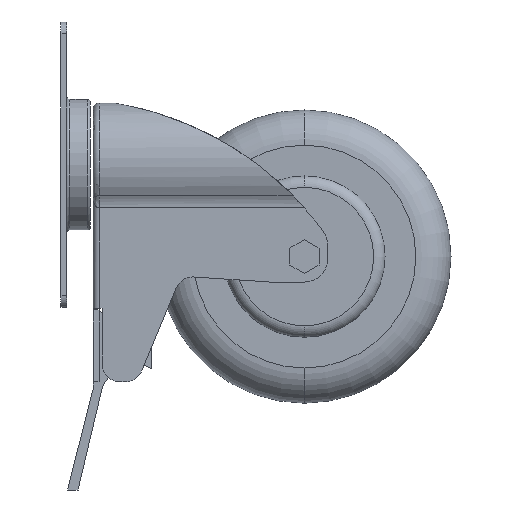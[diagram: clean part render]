
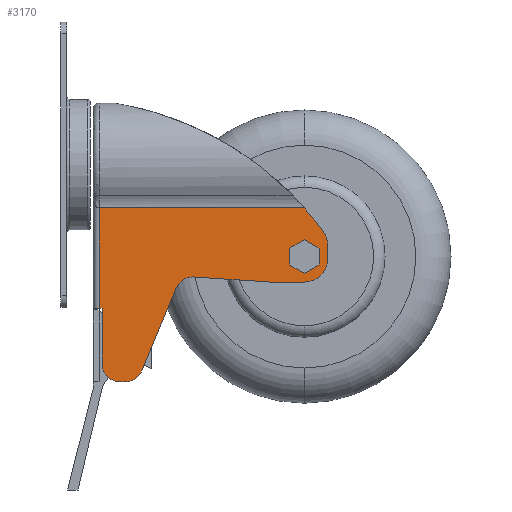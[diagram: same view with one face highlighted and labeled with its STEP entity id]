
A CAD part, left-side view. The second image highlights one B-rep face of the part: STEP entity #3170.
In plain terms, the highlighted planar face has unit normal (-1, 0, 0).
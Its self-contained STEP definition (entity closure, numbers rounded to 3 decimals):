
#31 = CARTESIAN_POINT ( 'NONE',  ( -17., -0.555, -87.608 ) ) ;
#78 = ORIENTED_EDGE ( 'NONE', *, *, #1843, .T. ) ;
#80 = LINE ( 'NONE', #951, #2406 ) ;
#169 = CARTESIAN_POINT ( 'NONE',  ( -17., -13., -14.697 ) ) ;
#218 = DIRECTION ( 'NONE',  ( -1., 0., 0. ) ) ;
#258 = CARTESIAN_POINT ( 'NONE',  ( -17., -83., -27.551 ) ) ;
#363 = VERTEX_POINT ( 'NONE', #500 ) ;
#374 = DIRECTION ( 'NONE',  ( 0., 0., -1. ) ) ;
#386 = CARTESIAN_POINT ( 'NONE',  ( -17., -39.348, -41.965 ) ) ;
#388 = VECTOR ( 'NONE', #940, 1000. ) ;
#410 = CARTESIAN_POINT ( 'NONE',  ( -17., -13., -14.697 ) ) ;
#434 = EDGE_CURVE ( 'NONE', #2921, #3862, #3911, .T. ) ;
#452 = CIRCLE ( 'NONE', #2693, 8. ) ;
#453 = EDGE_CURVE ( 'NONE', #4054, #934, #4657, .T. ) ;
#500 = CARTESIAN_POINT ( 'NONE',  ( -17., -82.92, -14.697 ) ) ;
#522 = VECTOR ( 'NONE', #2522, 1000. ) ;
#614 = VERTEX_POINT ( 'NONE', #4191 ) ;
#692 = AXIS2_PLACEMENT_3D ( 'NONE', #2886, #1825, #374 ) ;
#757 = CARTESIAN_POINT ( 'NONE',  ( -17., -89.466, -22.84 ) ) ;
#770 = ORIENTED_EDGE ( 'NONE', *, *, #3566, .T. ) ;
#775 = DIRECTION ( 'NONE',  ( 0., 1., 0. ) ) ;
#807 = CARTESIAN_POINT ( 'NONE',  ( -17., -14., -49. ) ) ;
#895 = CARTESIAN_POINT ( 'NONE',  ( -17., -22., -68. ) ) ;
#934 = VERTEX_POINT ( 'NONE', #1250 ) ;
#940 = DIRECTION ( 'NONE',  ( 0., -1., 0. ) ) ;
#951 = CARTESIAN_POINT ( 'NONE',  ( -17., -14., -40. ) ) ;
#977 = ORIENTED_EDGE ( 'NONE', *, *, #3546, .T. ) ;
#985 = VERTEX_POINT ( 'NONE', #3802 ) ;
#1026 = CIRCLE ( 'NONE', #2359, 8. ) ;
#1109 = EDGE_CURVE ( 'NONE', #1329, #3621, #1026, .T. ) ;
#1136 = CARTESIAN_POINT ( 'NONE',  ( -17., -83., -40. ) ) ;
#1162 = EDGE_CURVE ( 'NONE', #4580, #3621, #1490, .T. ) ;
#1199 = CARTESIAN_POINT ( 'NONE',  ( -17., -22., -74. ) ) ;
#1250 = CARTESIAN_POINT ( 'NONE',  ( -17., -13., -49. ) ) ;
#1295 = EDGE_CURVE ( 'NONE', #363, #4054, #2953, .T. ) ;
#1329 = VERTEX_POINT ( 'NONE', #1136 ) ;
#1334 = VERTEX_POINT ( 'NONE', #757 ) ;
#1403 = CARTESIAN_POINT ( 'NONE',  ( -17., -83., -32. ) ) ;
#1487 = EDGE_CURVE ( 'NONE', #3803, #2872, #1837, .T. ) ;
#1490 = LINE ( 'NONE', #3532, #522 ) ;
#1559 = AXIS2_PLACEMENT_3D ( 'NONE', #31, #2224, #4371 ) ;
#1632 = CARTESIAN_POINT ( 'NONE',  ( -17., -91., -32. ) ) ;
#1705 = LINE ( 'NONE', #3735, #3325 ) ;
#1769 = AXIS2_PLACEMENT_3D ( 'NONE', #2066, #3846, #2373 ) ;
#1777 = VECTOR ( 'NONE', #4483, 1000. ) ;
#1825 = DIRECTION ( 'NONE',  ( 1., 0., 0. ) ) ;
#1837 = CIRCLE ( 'NONE', #692, 6. ) ;
#1843 = EDGE_CURVE ( 'NONE', #2872, #614, #2284, .T. ) ;
#1933 = DIRECTION ( 'NONE',  ( 0., 1., 0. ) ) ;
#2009 = VECTOR ( 'NONE', #775, 1000. ) ;
#2061 = CARTESIAN_POINT ( 'NONE',  ( -17., -20., -74. ) ) ;
#2066 = CARTESIAN_POINT ( 'NONE',  ( -17., -20., -68. ) ) ;
#2112 = CARTESIAN_POINT ( 'NONE',  ( -17., -91., -40. ) ) ;
#2152 = AXIS2_PLACEMENT_3D ( 'NONE', #895, #3385, #4128 ) ;
#2211 = LINE ( 'NONE', #3075, #388 ) ;
#2224 = DIRECTION ( 'NONE',  ( -1., 0., 0. ) ) ;
#2284 = LINE ( 'NONE', #4466, #3227 ) ;
#2307 = ORIENTED_EDGE ( 'NONE', *, *, #1295, .T. ) ;
#2359 = AXIS2_PLACEMENT_3D ( 'NONE', #1403, #4295, #3514 ) ;
#2371 = VERTEX_POINT ( 'NONE', #2061 ) ;
#2373 = DIRECTION ( 'NONE',  ( 0., 0., -1. ) ) ;
#2406 = VECTOR ( 'NONE', #3108, 1000. ) ;
#2522 = DIRECTION ( 'NONE',  ( 0., 0., -1. ) ) ;
#2646 = CIRCLE ( 'NONE', #1559, 110. ) ;
#2693 = AXIS2_PLACEMENT_3D ( 'NONE', #258, #218, #2767 ) ;
#2719 = ORIENTED_EDGE ( 'NONE', *, *, #1487, .T. ) ;
#2765 = FACE_OUTER_BOUND ( 'NONE', #3543, .T. ) ;
#2767 = DIRECTION ( 'NONE',  ( 0., 0., -1. ) ) ;
#2788 = DIRECTION ( 'NONE',  ( 0., -0.385, 0.923 ) ) ;
#2872 = VERTEX_POINT ( 'NONE', #3368 ) ;
#2886 = CARTESIAN_POINT ( 'NONE',  ( -17., -44.886, -44.272 ) ) ;
#2902 = EDGE_CURVE ( 'NONE', #934, #2925, #1705, .T. ) ;
#2921 = VERTEX_POINT ( 'NONE', #1199 ) ;
#2925 = VERTEX_POINT ( 'NONE', #807 ) ;
#2944 = CARTESIAN_POINT ( 'NONE',  ( -17., -91., -40. ) ) ;
#2953 = LINE ( 'NONE', #410, #2009 ) ;
#2981 = CARTESIAN_POINT ( 'NONE',  ( -17., -27.538, -70.308 ) ) ;
#3075 = CARTESIAN_POINT ( 'NONE',  ( -17., -13., -74. ) ) ;
#3083 = ORIENTED_EDGE ( 'NONE', *, *, #453, .T. ) ;
#3108 = DIRECTION ( 'NONE',  ( 0., 0., -1. ) ) ;
#3164 = CIRCLE ( 'NONE', #1769, 6. ) ;
#3168 = CARTESIAN_POINT ( 'NONE',  ( -17., -41., -38. ) ) ;
#3170 = ADVANCED_FACE ( 'NONE', ( #2765 ), #4592, .F. ) ;
#3227 = VECTOR ( 'NONE', #3319, 1000. ) ;
#3247 = ORIENTED_EDGE ( 'NONE', *, *, #2902, .T. ) ;
#3319 = DIRECTION ( 'NONE',  ( 0., -0.998, -0.067 ) ) ;
#3321 = ORIENTED_EDGE ( 'NONE', *, *, #3834, .F. ) ;
#3325 = VECTOR ( 'NONE', #3395, 1000. ) ;
#3368 = CARTESIAN_POINT ( 'NONE',  ( -17., -45.286, -38.286 ) ) ;
#3385 = DIRECTION ( 'NONE',  ( -1., 0., 0. ) ) ;
#3395 = DIRECTION ( 'NONE',  ( 0., -1., 0. ) ) ;
#3502 = LINE ( 'NONE', #3168, #4595 ) ;
#3514 = DIRECTION ( 'NONE',  ( 0., 0., -1. ) ) ;
#3532 = CARTESIAN_POINT ( 'NONE',  ( -17., -91., -40. ) ) ;
#3543 = EDGE_LOOP ( 'NONE', ( #4321, #3861, #4049, #2719, #78, #3321, #4616, #4558, #4090, #3984, #2307, #3083, #3247, #977, #770 ) ) ;
#3546 = EDGE_CURVE ( 'NONE', #2925, #985, #80, .T. ) ;
#3560 = DIRECTION ( 'NONE',  ( 0., 0., -1. ) ) ;
#3566 = EDGE_CURVE ( 'NONE', #985, #2371, #3164, .T. ) ;
#3574 = EDGE_CURVE ( 'NONE', #2371, #2921, #2211, .T. ) ;
#3621 = VERTEX_POINT ( 'NONE', #1632 ) ;
#3659 = EDGE_CURVE ( 'NONE', #3862, #3803, #3502, .T. ) ;
#3735 = CARTESIAN_POINT ( 'NONE',  ( -17., -91., -49. ) ) ;
#3741 = CARTESIAN_POINT ( 'NONE',  ( -17., -13., -40. ) ) ;
#3802 = CARTESIAN_POINT ( 'NONE',  ( -17., -14., -68. ) ) ;
#3803 = VERTEX_POINT ( 'NONE', #386 ) ;
#3834 = EDGE_CURVE ( 'NONE', #1329, #614, #4242, .T. ) ;
#3846 = DIRECTION ( 'NONE',  ( -1., 0., 0. ) ) ;
#3861 = ORIENTED_EDGE ( 'NONE', *, *, #434, .T. ) ;
#3862 = VERTEX_POINT ( 'NONE', #2981 ) ;
#3911 = CIRCLE ( 'NONE', #2152, 6. ) ;
#3929 = DIRECTION ( 'NONE',  ( 1., 0., 0. ) ) ;
#3984 = ORIENTED_EDGE ( 'NONE', *, *, #4264, .T. ) ;
#4049 = ORIENTED_EDGE ( 'NONE', *, *, #3659, .T. ) ;
#4054 = VERTEX_POINT ( 'NONE', #169 ) ;
#4090 = ORIENTED_EDGE ( 'NONE', *, *, #4117, .T. ) ;
#4117 = EDGE_CURVE ( 'NONE', #4580, #1334, #452, .T. ) ;
#4128 = DIRECTION ( 'NONE',  ( 0., 0., -1. ) ) ;
#4189 = VECTOR ( 'NONE', #1933, 1000. ) ;
#4191 = CARTESIAN_POINT ( 'NONE',  ( -17., -71., -40. ) ) ;
#4242 = LINE ( 'NONE', #2944, #4189 ) ;
#4264 = EDGE_CURVE ( 'NONE', #1334, #363, #2646, .T. ) ;
#4295 = DIRECTION ( 'NONE',  ( -1., 0., 0. ) ) ;
#4321 = ORIENTED_EDGE ( 'NONE', *, *, #3574, .T. ) ;
#4371 = DIRECTION ( 'NONE',  ( 0., 0., -1. ) ) ;
#4466 = CARTESIAN_POINT ( 'NONE',  ( -17., -90.912, -41.327 ) ) ;
#4483 = DIRECTION ( 'NONE',  ( 0., 0., -1. ) ) ;
#4524 = AXIS2_PLACEMENT_3D ( 'NONE', #2112, #3929, #3560 ) ;
#4558 = ORIENTED_EDGE ( 'NONE', *, *, #1162, .F. ) ;
#4580 = VERTEX_POINT ( 'NONE', #4697 ) ;
#4592 = PLANE ( 'NONE',  #4524 ) ;
#4595 = VECTOR ( 'NONE', #2788, 1000. ) ;
#4616 = ORIENTED_EDGE ( 'NONE', *, *, #1109, .T. ) ;
#4657 = LINE ( 'NONE', #3741, #1777 ) ;
#4697 = CARTESIAN_POINT ( 'NONE',  ( -17., -91., -27.551 ) ) ;
